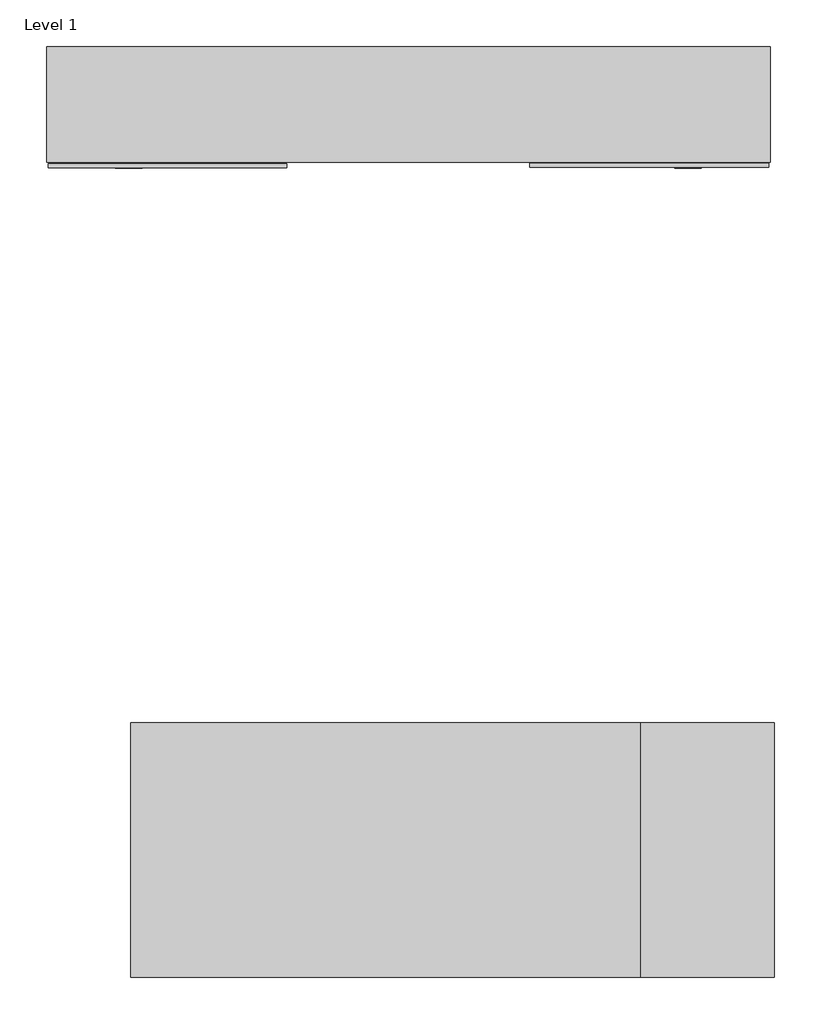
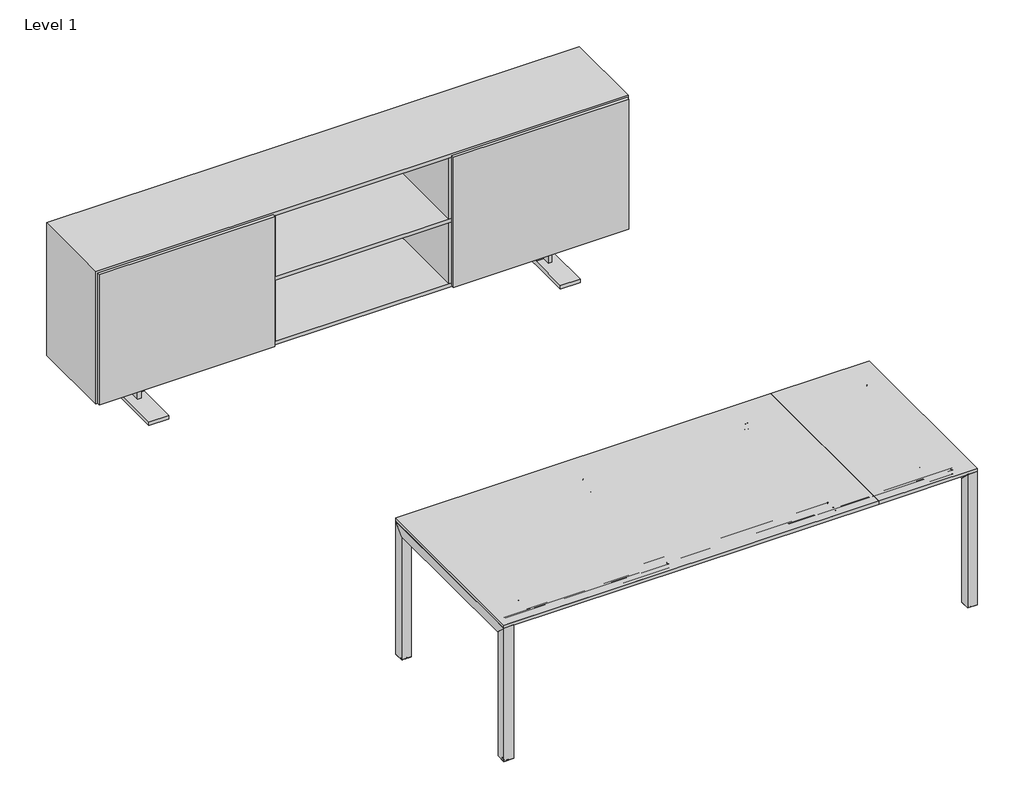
# One storey, incomplete: 2 furniture elements.
"""IFC4 building model written with IfcOpenShell, lengths in millimetres."""

from ifc_helpers import new_model, si_unit, origin, place, context, project, spatial, transform, mapped, element, save
from components import furniture_48a592a2, medium_d73daffb, medium_e8491f86

model = new_model("IFC4")

# Units and contexts
model_context = context("Model", 3, world=origin())
ifc_project = project(units=[si_unit("LENGTHUNIT", "METRE", prefix="MILLI")], contexts=[model_context])

# Site, building, storey
site = spatial("IfcSite", under=ifc_project)
building = spatial("IfcBuilding", under=site)
storey = spatial("IfcBuildingStorey", under=building, Name="Level 1", Elevation=0.0)

# Furniture
placement = place(None, origin())
furniture_shape = furniture_48a592a2(model_context)
element("IfcFurniture", 1, ObjectType="Haworth_Luxor_Cabinet_28 : HCCE-LX - Shelf & Two Drawers/Door - 71w 35h", at=placement, inside=storey, context=model_context, shape_type="MappedRepresentation", body=[
    mapped(furniture_shape, transform((5898.4302519, 6103.4999618, 0.0), x_axis=(1.0, 0.0, 0.0), y_axis=(0.0, 1.0, 0.0), z_axis=(0.0, 0.0, 1.0))),
])
medium_shape = medium_d73daffb(model_context)
medium_2_shape = medium_e8491f86(model_context)
element("IfcFurniture", 2, ObjectType="Haworth_Cassina_Naan_CollaborativeTable_ExtendableWidth_NA : Medium", at=placement, inside=storey, context=model_context, shape_type="MappedRepresentation", body=[
    mapped(medium_shape, transform((6218.4430077, 3850.0173662, 0.0), x_axis=(1.0, 0.0, 0.0), y_axis=(0.0, 1.0, 0.0), z_axis=(0.0, 0.0, 1.0))),
    mapped(medium_2_shape, transform((6218.4430077, 3850.0173662, 0.0), x_axis=(1.0, 0.0, 0.0), y_axis=(0.0, 1.0, 0.0), z_axis=(0.0, 0.0, 1.0))),
])

save(model, "model.ifc")
